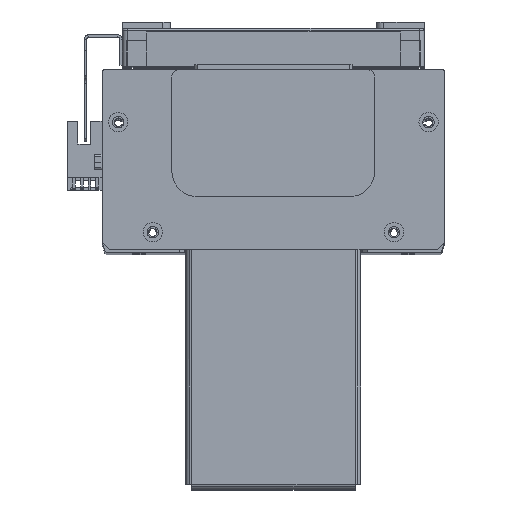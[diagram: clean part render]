
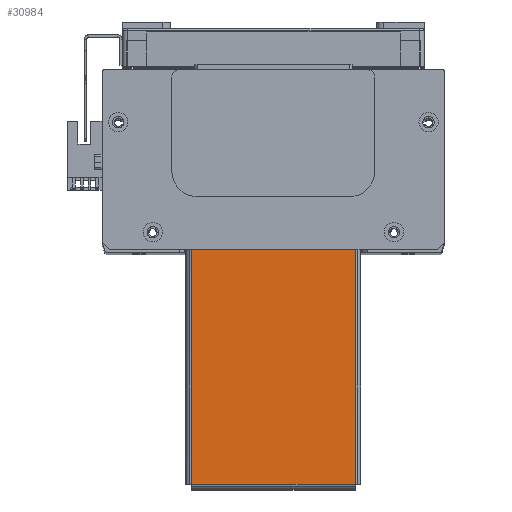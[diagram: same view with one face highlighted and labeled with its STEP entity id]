
A CAD part, top view. The second image highlights one B-rep face of the part: STEP entity #30984.
In plain terms, the highlighted planar face has unit normal (0, 0, 1) as drawn and (0, -1, 0) by its records, which use the part's own axes.
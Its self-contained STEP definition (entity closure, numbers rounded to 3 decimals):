
#1682 = EDGE_LOOP ( 'NONE', ( #13963, #13939, #13924, #14015 ) ) ;
#9755 = CARTESIAN_POINT ( 'NONE',  ( -2., -1.5, 32.263 ) ) ;
#9853 = CARTESIAN_POINT ( 'NONE',  ( -94.763, -1.5, -32.263 ) ) ;
#10703 = CARTESIAN_POINT ( 'NONE',  ( -94.763, -1.5, 32.263 ) ) ;
#10732 = CARTESIAN_POINT ( 'NONE',  ( -2., -1.5, -32.263 ) ) ;
#12897 = VERTEX_POINT ( 'NONE', #9755 ) ;
#12920 = VERTEX_POINT ( 'NONE', #9853 ) ;
#13371 = VERTEX_POINT ( 'NONE', #10703 ) ;
#13379 = VERTEX_POINT ( 'NONE', #10732 ) ;
#13924 = ORIENTED_EDGE ( 'NONE', *, *, #41876, .T. ) ;
#13939 = ORIENTED_EDGE ( 'NONE', *, *, #41915, .F. ) ;
#13963 = ORIENTED_EDGE ( 'NONE', *, *, #41866, .T. ) ;
#14015 = ORIENTED_EDGE ( 'NONE', *, *, #41820, .T. ) ;
#30984 = ADVANCED_FACE ( 'NONE', ( #53069 ), #55239, .F. ) ;
#36644 = AXIS2_PLACEMENT_3D ( 'NONE', #55258, #55220, #55259 ) ;
#41820 = EDGE_CURVE ( 'NONE', #13371, #12920, #45995, .T. ) ;
#41866 = EDGE_CURVE ( 'NONE', #12920, #13379, #46047, .T. ) ;
#41876 = EDGE_CURVE ( 'NONE', #12897, #13371, #46037, .T. ) ;
#41915 = EDGE_CURVE ( 'NONE', #12897, #13379, #46150, .T. ) ;
#45989 = VECTOR ( 'NONE', #47012, 1000. ) ;
#45995 = LINE ( 'NONE', #47011, #45989 ) ;
#46037 = LINE ( 'NONE', #47170, #46048 ) ;
#46047 = LINE ( 'NONE', #47100, #46060 ) ;
#46048 = VECTOR ( 'NONE', #47181, 1000. ) ;
#46060 = VECTOR ( 'NONE', #47137, 1000. ) ;
#46120 = VECTOR ( 'NONE', #47241, 1000. ) ;
#46150 = LINE ( 'NONE', #47239, #46120 ) ;
#47011 = CARTESIAN_POINT ( 'NONE',  ( -94.763, -1.5, 32.293 ) ) ;
#47012 = DIRECTION ( 'NONE',  ( 0., 0., -1. ) ) ;
#47100 = CARTESIAN_POINT ( 'NONE',  ( -94.793, -1.5, -32.263 ) ) ;
#47137 = DIRECTION ( 'NONE',  ( 1., 0., 0. ) ) ;
#47170 = CARTESIAN_POINT ( 'NONE',  ( 94.793, -1.5, 32.263 ) ) ;
#47181 = DIRECTION ( 'NONE',  ( -1., 0., 0. ) ) ;
#47239 = CARTESIAN_POINT ( 'NONE',  ( -2., -1.5, 34.5 ) ) ;
#47241 = DIRECTION ( 'NONE',  ( 0., 0., -1. ) ) ;
#53069 = FACE_OUTER_BOUND ( 'NONE', #1682, .T. ) ;
#55220 = DIRECTION ( 'NONE',  ( 0., 1., 0. ) ) ;
#55239 = PLANE ( 'NONE',  #36644 ) ;
#55258 = CARTESIAN_POINT ( 'NONE',  ( 0., -1.5, 0. ) ) ;
#55259 = DIRECTION ( 'NONE',  ( 0., 0., 1. ) ) ;
